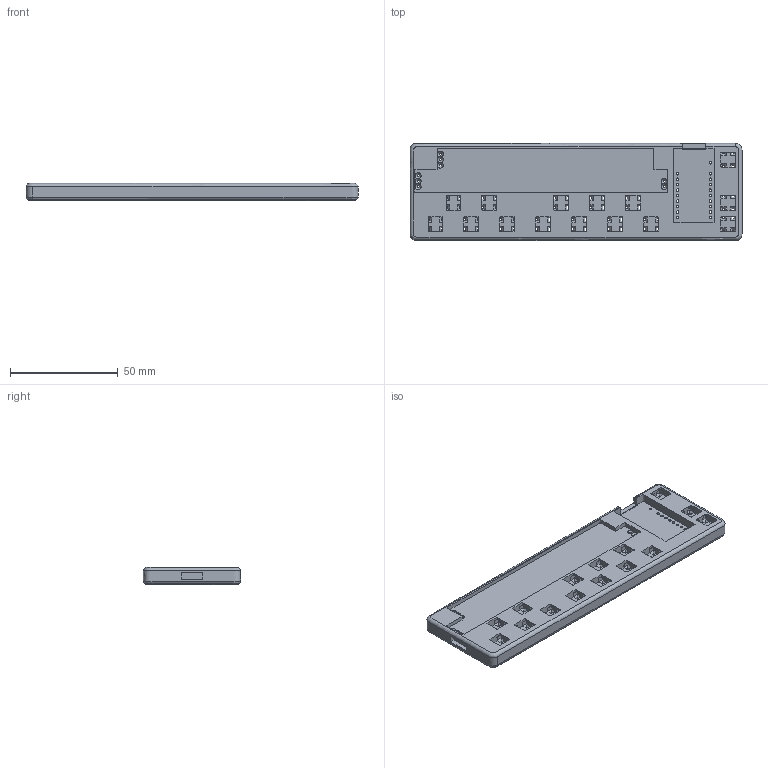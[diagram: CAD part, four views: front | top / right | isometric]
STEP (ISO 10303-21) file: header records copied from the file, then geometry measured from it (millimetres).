
FILE_DESCRIPTION(/* description */ (''),/* implementation_level */ '2;1');
FILE_NAME(/* name */ 'keyboard7d',/* time_stamp */ '2020-10-28T13:31:33+01:00',/* author */ (''),/* organization */ (''),/* preprocessor_version */ 'ST-DEVELOPER v10',/* originating_system */ '',/* authorisation */ '');
FILE_SCHEMA (('CONFIG_CONTROL_DESIGN'));
Length unit declared in the file: millimetre
Products named in the file (1): 1
Bounding box: 154 x 45 x 8 mm (x, y, z)
Volume: 35825.2 mm3; surface area: 25337.7 mm2
Topology: 1 solids, 1 shells, 1655 faces, 4445 edges, 2721 vertices
Faces by surface type: plane 1258, bspline 397
Entity records: 73999 total; most frequent: CARTESIAN_POINT 44783, ORIENTED_EDGE 8890, EDGE_CURVE 4445, B_SPLINE_CURVE_WITH_KNOTS 3901, VERTEX_POINT 2722, EDGE_LOOP 1762, ADVANCED_FACE 1655, FACE_OUTER_BOUND 1655
